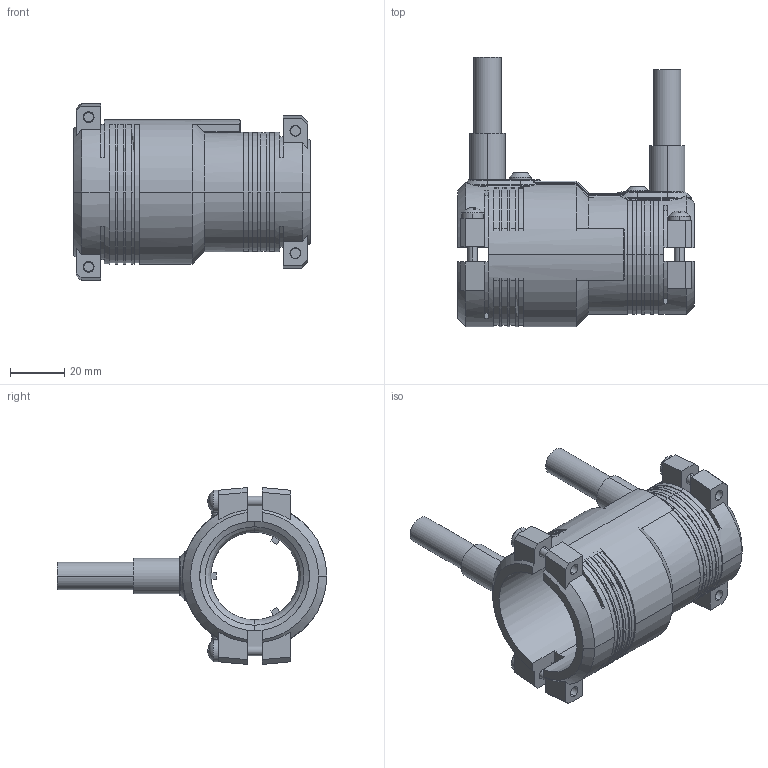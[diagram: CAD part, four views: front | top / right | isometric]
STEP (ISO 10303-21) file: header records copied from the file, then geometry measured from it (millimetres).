
FILE_DESCRIPTION (( 'STEP AP203' ), '1' );
FILE_NAME ('KP_T40-32.STEP', '2012-01-18T10:24:52', ( '' ), ( '' ), 'SwSTEP 2.0', 'SolidWorks 2012', '' );
FILE_SCHEMA (( 'CONFIG_CONTROL_DESIGN' ));
Length unit declared in the file: millimetre
Products named in the file (1): KP_T40-32
Bounding box: 87 x 99 x 65 mm (x, y, z)
Volume: 83821.5 mm3; surface area: 38126.8 mm2
Topology: 1 solids, 5 shells, 536 faces, 1336 edges, 837 vertices
Faces by surface type: plane 243, cylinder 185, bspline 47, torus 28, cone 23, sphere 10
Entity records: 17370 total; most frequent: CARTESIAN_POINT 4585, DIRECTION 2711, ORIENTED_EDGE 2644, EDGE_CURVE 1322, AXIS2_PLACEMENT_3D 1043, VERTEX_POINT 833, VECTOR 625, LINE 625
